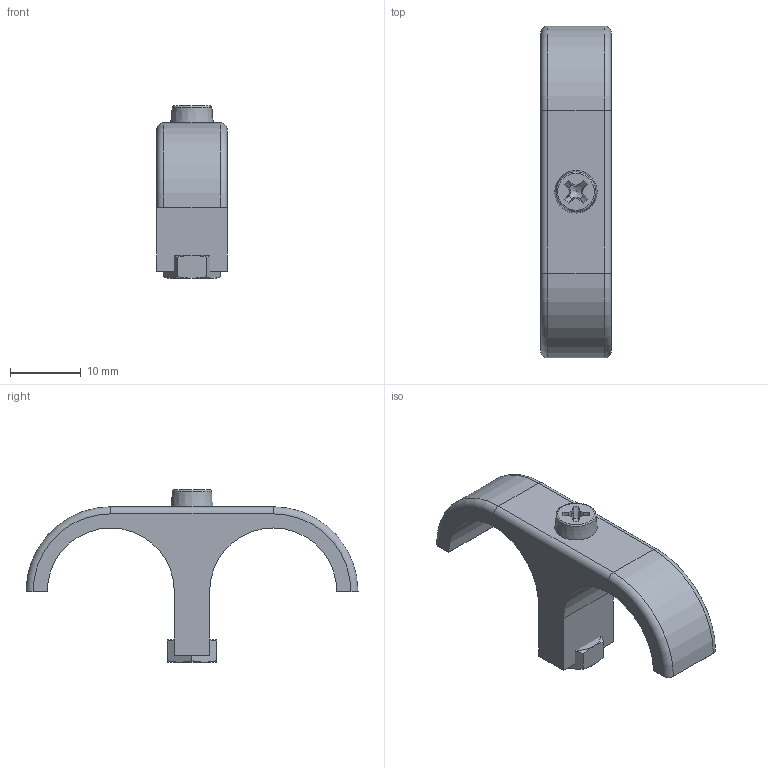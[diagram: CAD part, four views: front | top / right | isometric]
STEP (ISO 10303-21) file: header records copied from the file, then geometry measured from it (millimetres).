
FILE_DESCRIPTION(('FreeCAD Model'),'2;1');
FILE_NAME('Open CASCADE Shape Model','2024-11-01T19:26:12',('Author'),( ''),'Open CASCADE STEP processor 7.6','FreeCAD','Unknown');
FILE_SCHEMA(('AUTOMOTIVE_DESIGN { 1 0 10303 214 1 1 1 1 }'));
Length unit declared in the file: millimetre
Products named in the file (4): soporte1865_vo3; M4-Tuerca; (M3.5)x22-Tornillo; Pocket002
Assembly tree (3 placements, depth 2):
  soporte1865_vo3
    M4-Tuerca
    (M3.5)x22-Tornillo
    Pocket002
Bounding box: 10 x 47.01 x 24.4 mm (x, y, z)
Volume: 3045 mm3; surface area: 2731.2 mm2
Topology: 3 solids, 3 shells, 82 faces, 197 edges, 122 vertices
Faces by surface type: plane 39, cone 23, cylinder 14, torus 4, revolution 2
Full cylindrical faces by diameter (mm): 2.903 x1, 3.242 x1, 3.5 x1, 6 x1
Entity records: 2594 total; most frequent: CARTESIAN_POINT 493, DIRECTION 477, ORIENTED_EDGE 392, EDGE_CURVE 196, AXIS2_PLACEMENT_3D 195, VERTEX_POINT 122, FACE_BOUND 88, EDGE_LOOP 88
